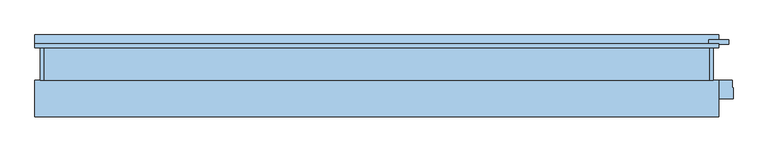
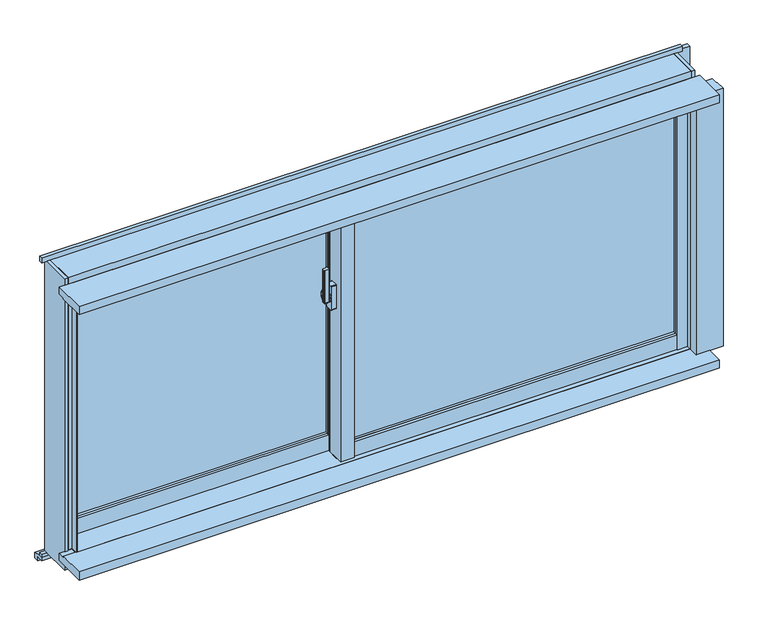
"""IFC4 building model written with IfcOpenShell, lengths in millimetres: window geometry, FNSⅡ100R_個別防火_ALC枠_単窓 : 外動片引."""

from ifc_helpers import new_model, si_unit, point, frame, frame_2d, origin, place, context, project, spatial, polyline, circle_curve, trimmed, segment, composite_curve, outline, extrude, faceted_brep, source, transform, mapped, element, save
from ifc_brep_helpers import plane_surface, cylinder_surface, revolved_surface, advanced_brep


def window_2540c21f(model_context):
    return source(origin(), model_context, "Body", "SolidModel", [
        extrude(outline(composite_curve([segment(polyline([(-139.0, 14.6), (-139.0, 6.4)]), True, "CONTINUOUS"), segment(trimmed(circle_curve(frame_2d((-141.0, 6.4)), 2.0), [point((-139.0, 6.4))], [point((-141.3606557, 4.4327869))], False, "CARTESIAN"), True, "CONTINUOUS"), segment(polyline([(-141.3606557, 4.4327869), (-152.3606557, 6.4494536)]), True, "CONTINUOUS"), segment(trimmed(circle_curve(frame_2d((-152.0, 8.4166667)), 2.0), [point((-152.3606557, 6.4494536))], [point((-154.0, 8.4166667))], False, "CARTESIAN"), True, "CONTINUOUS"), segment(polyline([(-154.0, 8.4166667), (-154.0, 12.5833333)]), True, "CONTINUOUS"), segment(trimmed(circle_curve(frame_2d((-152.0, 12.5833333)), 2.0), [point((-154.0, 12.5833333))], [point((-152.3606557, 14.5505464))], False, "CARTESIAN"), True, "CONTINUOUS"), segment(polyline([(-152.3606557, 14.5505464), (-141.3606557, 16.5672131)]), True, "CONTINUOUS"), segment(trimmed(circle_curve(frame_2d((-141.0, 14.6)), 2.0), [point((-141.3606557, 16.5672131))], [point((-139.0, 14.6))], False, "CARTESIAN"), True, "CONTINUOUS")], self_intersect=False)), frame((0.0, 0.0, 1390.0), z_axis=(0.0, 0.0, 1.0), x_axis=(1.0, 0.0, 0.0)), (0.0, 0.0, 1.0), 100.0),
        advanced_brep(
        [(-137.5, 18.8234285, 1421.7333311), (-145.5, 18.8234285, 1421.7333311), (-145.5, 18.4351999, 1420.2844424), (-139.0, 18.4351999, 1420.2844424), (-139.0, 16.6234666, 1413.5229616), (-137.5, 16.6234666, 1413.5229616), (-139.0, 16.6466117, 1379.3190372), (-145.5, 16.6466117, 1379.3190372), (-145.5, 16.907084, 1377.8418256), (-137.5, 16.907084, 1377.8418256), (-137.5, 15.4310745, 1386.2126915), (-139.0, 15.4310745, 1386.2126915)],
        [
            (0, 1),
            (1, 2),
            (2, 3),
            (3, 4),
            (4, 5),
            (5, 0),
            (6, 7),
            (7, 8),
            (8, 9),
            (9, 10),
            (10, 11),
            (11, 6),
            (0, 9, circle_curve(frame((-137.5, 13.0, 1400.0), z_axis=(-1.0, 0.0, 0.0), x_axis=(0.0, 0.25881904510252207, 0.965925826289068)), 22.5)),
            (8, 1, circle_curve(frame((-145.5, 13.0, 1400.0), z_axis=(1.0, 0.0, 0.0), x_axis=(0.0, 0.25881904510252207, 0.965925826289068)), 22.5)),
            (7, 2, circle_curve(frame((-145.5, 13.0, 1400.0), z_axis=(1.0, 0.0, 0.0), x_axis=(0.0, 0.25881904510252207, 0.965925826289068)), 21.0)),
            (6, 3, circle_curve(frame((-139.0, 13.0, 1400.0), z_axis=(1.0, 0.0, 0.0), x_axis=(0.0, 0.25881904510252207, 0.965925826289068)), 21.0)),
            (11, 4, circle_curve(frame((-139.0, 13.0, 1400.0), z_axis=(-1.0, 0.0, 0.0), x_axis=(0.0, -1.0, 0.0)), 14.0)),
            (5, 10, circle_curve(frame((-137.5, 13.0, 1400.0), z_axis=(1.0, 0.0, 0.0), x_axis=(0.0, -1.0, 0.0)), 14.0)),
        ],
        [
            plane_surface(frame((-143.5470497, 13.0, 1400.0), z_axis=(0.0, -0.965925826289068, 0.25881904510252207), x_axis=(0.0, 0.25881904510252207, 0.965925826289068))),
            plane_surface(frame((-143.5470497, 13.0, 1400.0), z_axis=(0.0, -0.9848077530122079, -0.17364817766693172), x_axis=(0.0, 0.17364817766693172, -0.9848077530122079))),
            cylinder_surface(frame((-143.5470497, 13.0, 1400.0), z_axis=(-1.0, 0.0, 0.0), x_axis=(0.0, 0.25881904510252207, 0.965925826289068)), 22.5),
            plane_surface(frame((-145.5, 13.0, 1400.0), z_axis=(-1.0, 0.0, 0.0), x_axis=(0.0, 0.25881904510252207, 0.965925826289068))),
            revolved_surface(polyline([(-145.5, 18.435199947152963, 1420.2844423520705), (-139.0, 18.435199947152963, 1420.2844423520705)]), (-143.5470497, 13.0, 1400.0), (-1.0, 0.0, 0.0)),
            plane_surface(frame((-139.0, 13.0, 1400.0), z_axis=(-1.0, 0.0, 0.0), x_axis=(0.0, 0.25881904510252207, 0.965925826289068))),
            plane_surface(frame((-137.5, 13.0, 1400.0), z_axis=(1.0, 0.0, 0.0), x_axis=(0.0, 0.25881904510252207, 0.965925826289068))),
            cylinder_surface(frame((-137.5, 13.0, 1400.0), z_axis=(-1.0, 0.0, 0.0), x_axis=(0.0, -1.0, 0.0)), 14.0),
        ],
        [
            (0, [[1, 2, 3, 4, 5, 6]]),
            (1, [[7, 8, 9, 10, 11, 12]]),
            (2, [[-1, 13, -9, 14]]),
            (3, [[-2, -14, -8, 15]]),
            (4, [[-3, -15, -7, 16]]),
            (5, [[-16, -12, 17, -4]]),
            (6, [[-13, -6, 18, -10]]),
            (7, [[-17, -11, -18, -5]]),
        ],
    ),
        extrude(outline(composite_curve([segment(trimmed(circle_curve(frame_2d((13.0, 1400.0)), 11.5), [point((24.5, 1400.0))], [point((1.5, 1400.0))], False, "CARTESIAN"), True, "CONTINUOUS"), segment(trimmed(circle_curve(frame_2d((13.0, 1400.0)), 11.5), [point((1.5, 1400.0))], [point((24.5, 1400.0))], False, "CARTESIAN"), True, "CONTINUOUS")], self_intersect=False)), frame((-137.5, 0.0, 0.0), z_axis=(1.0, 0.0, 0.0), x_axis=(0.0, 1.0, 0.0)), (0.0, 0.0, 1.0), 2.5),
        extrude(outline(composite_curve([segment(polyline([(4.0, 1437.5), (22.0, 1437.5)]), True, "CONTINUOUS"), segment(trimmed(circle_curve(frame_2d((22.0, 1435.5)), 2.0), [point((22.0, 1437.5))], [point((24.0, 1435.5))], False, "CARTESIAN"), True, "CONTINUOUS"), segment(polyline([(24.0, 1435.5), (24.0, 1364.5)]), True, "CONTINUOUS"), segment(trimmed(circle_curve(frame_2d((22.0, 1364.5)), 2.0), [point((24.0, 1364.5))], [point((22.0, 1362.5))], False, "CARTESIAN"), True, "CONTINUOUS"), segment(polyline([(22.0, 1362.5), (4.0, 1362.5)]), True, "CONTINUOUS"), segment(trimmed(circle_curve(frame_2d((4.0, 1364.5)), 2.0), [point((4.0, 1362.5))], [point((2.0, 1364.5))], False, "CARTESIAN"), True, "CONTINUOUS"), segment(polyline([(2.0, 1364.5), (2.0, 1435.5)]), True, "CONTINUOUS"), segment(trimmed(circle_curve(frame_2d((4.0, 1435.5)), 2.0), [point((2.0, 1435.5))], [point((4.0, 1437.5))], False, "CARTESIAN"), True, "CONTINUOUS")], self_intersect=False)), frame((-135.0, 0.0, 0.0), z_axis=(1.0, 0.0, 0.0), x_axis=(0.0, 1.0, 0.0)), (0.0, 0.0, 1.0), 15.0),
        extrude(outline(polyline([(-80.0, 4.0), (868.0, 4.0), (868.0, -2.0), (-80.0, -2.0), (-80.0, 4.0)])), frame((0.0, 0.0, 948.0), z_axis=(0.0, 0.0, 1.0), x_axis=(1.0, 0.0, 0.0)), (0.0, 0.0, 1.0), 712.0),
        extrude(outline(polyline([(-80.0, 22.0), (868.0, 22.0), (868.0, 16.0), (-80.0, 16.0), (-80.0, 22.0)])), frame((0.0, 0.0, 948.0), z_axis=(0.0, 0.0, 1.0), x_axis=(1.0, 0.0, 0.0)), (0.0, 0.0, 1.0), 712.0),
        extrude(outline(polyline([(-868.0, 62.0), (-120.0, 62.0), (-120.0, 56.0), (-868.0, 56.0), (-868.0, 62.0)])), frame((0.0, 0.0, 948.0), z_axis=(0.0, 0.0, 1.0), x_axis=(1.0, 0.0, 0.0)), (0.0, 0.0, 1.0), 712.0),
        extrude(outline(polyline([(-868.0, 80.0), (-120.0, 80.0), (-120.0, 74.0), (-868.0, 74.0), (-868.0, 80.0)])), frame((0.0, 0.0, 948.0), z_axis=(0.0, 0.0, 1.0), x_axis=(1.0, 0.0, 0.0)), (0.0, 0.0, 1.0), 712.0),
        faceted_brep([(-900.0, 59.0, 1700.0), (-889.5, 59.0, 1700.0), (-889.5, 46.0, 1700.0), (-868.0, 46.0, 1700.0), (-868.0, 88.0, 1700.0), (-900.0, 88.0, 1700.0), (-868.0, 59.0, 860.0), (-900.0, 59.0, 860.0), (-900.0, 88.0, 860.0), (-868.0, 88.0, 860.0), (-868.0, 59.0, 900.0), (-889.5, 59.0, 900.0), (-889.5, 46.0, 900.0), (-868.0, 46.0, 900.0)], [[[0, 1, 2, 3, 4, 5]], [[6, 7, 8, 9]], [[1, 0, 7, 6, 10, 11]], [[2, 1, 11, 12]], [[3, 2, 12, 13]], [[4, 3, 13, 10, 6, 9]], [[5, 4, 9, 8]], [[7, 0, 5, 8]], [[11, 10, 13, 12]]]),
        faceted_brep([(-80.0, 59.0, 900.0), (-120.0, 59.0, 900.0), (-120.0, 59.0, 860.0), (-80.0, 59.0, 860.0), (-120.0, 45.5, 1700.0), (-101.8, 45.5, 1700.0), (-101.8, 33.1, 1700.0), (-80.0, 33.1, 1700.0), (-80.0, 88.0, 1700.0), (-120.0, 88.0, 1700.0), (-120.0, 88.0, 860.0), (-80.0, 88.0, 860.0), (-120.0, 45.5, 900.0), (-101.8, 45.5, 900.0), (-101.8, 33.1, 900.0), (-80.0, 33.1, 900.0)], [[[0, 1, 2, 3]], [[4, 5, 6, 7, 8, 9]], [[10, 11, 3, 2]], [[5, 4, 12, 13]], [[6, 5, 13, 14]], [[7, 6, 14, 15]], [[8, 7, 15, 0, 3, 11]], [[9, 8, 11, 10]], [[4, 9, 10, 2, 1, 12]], [[1, 0, 15, 14, 13, 12]]]),
        extrude(outline(polyline([(-120.0, 33.1), (-115.0, 33.1), (-115.0, -12.0), (-82.6, -12.0), (-82.6, -8.0), (-80.0, -8.0), (-80.0, -20.0), (-120.0, -20.0), (-120.0, 33.1)])), frame((0.0, 0.0, 900.0), z_axis=(0.0, 0.0, 1.0), x_axis=(1.0, 0.0, 0.0)), (0.0, 0.0, 1.0), 800.0),
        extrude(outline(polyline([(-115.0, 33.1), (-80.0, 33.1), (-80.0, -8.0), (-82.6, -8.0), (-82.6, -12.0), (-115.0, -12.0), (-115.0, 33.1)])), frame((0.0, 0.0, 900.0), z_axis=(0.0, 0.0, 1.0), x_axis=(1.0, 0.0, 0.0)), (0.0, 0.0, 1.0), 800.0),
        extrude(outline(polyline([(868.0, -20.0), (868.0, -12.0), (889.5, -12.0), (889.5, 1.0), (897.0, 1.0), (897.0, -20.0), (868.0, -20.0)])), frame((0.0, 0.0, 903.0), z_axis=(0.0, 0.0, 1.0), x_axis=(1.0, 0.0, 0.0)), (0.0, 0.0, 1.0), 797.0),
        extrude(outline(polyline([(868.0, 30.0), (900.0, 30.0), (900.0, 1.0), (889.5, 1.0), (889.5, -12.0), (868.0, -12.0), (868.0, 30.0)])), frame((0.0, 0.0, 900.0), z_axis=(0.0, 0.0, 1.0), x_axis=(1.0, 0.0, 0.0)), (0.0, 0.0, 1.0), 800.0),
        extrude(outline(polyline([(-101.8, 45.5), (-101.8, 38.0), (-120.0, 38.0), (-120.0, 45.5), (-101.8, 45.5)])), frame((0.0, 0.0, 900.0), z_axis=(0.0, 0.0, 1.0), x_axis=(1.0, 0.0, 0.0)), (0.0, 0.0, 1.0), 800.0),
        extrude(outline(polyline([(-897.0, 59.0), (-889.5, 59.0), (-889.5, 46.0), (-868.0, 46.0), (-868.0, 38.0), (-897.0, 38.0), (-897.0, 59.0)])), frame((0.0, 0.0, 900.0), z_axis=(0.0, 0.0, 1.0), x_axis=(1.0, 0.0, 0.0)), (0.0, 0.0, 1.0), 800.0),
        extrude(outline(polyline([(-18.0, 903.0), (-18.0, 948.0), (-10.0, 948.0), (-10.0, 925.5), (1.0, 925.5), (1.0, 903.0), (-18.0, 903.0)])), frame((-80.0, 0.0, 0.0), z_axis=(1.0, 0.0, 0.0), x_axis=(0.0, 1.0, 0.0)), (0.0, 0.0, 1.0), 948.0),
        extrude(outline(polyline([(30.0, 900.0), (1.0, 900.0), (1.0, 925.5), (-10.0, 925.5), (-10.0, 948.0), (30.0, 948.0), (30.0, 900.0)])), frame((-80.0, 0.0, 0.0), z_axis=(1.0, 0.0, 0.0), x_axis=(0.0, 1.0, 0.0)), (0.0, 0.0, 1.0), 948.0),
        extrude(outline(polyline([(40.0, 948.0), (48.0, 948.0), (48.0, 925.5), (59.0, 925.5), (59.0, 900.0), (40.0, 900.0), (40.0, 948.0)])), frame((-868.0, 0.0, 0.0), z_axis=(1.0, 0.0, 0.0), x_axis=(0.0, 1.0, 0.0)), (0.0, 0.0, 1.0), 748.0),
        extrude(outline(polyline([(88.0, 860.0), (59.0, 860.0), (59.0, 925.5), (48.0, 925.5), (48.0, 948.0), (88.0, 948.0), (88.0, 860.0)])), frame((-868.0, 0.0, 0.0), z_axis=(1.0, 0.0, 0.0), x_axis=(0.0, 1.0, 0.0)), (0.0, 0.0, 1.0), 748.0),
        extrude(outline(polyline([(3.0, 1680.5), (-10.0, 1680.5), (-10.0, 1660.0), (-18.0, 1660.0), (-18.0, 1700.0), (3.0, 1700.0), (3.0, 1680.5)])), frame((-80.0, 0.0, 0.0), z_axis=(1.0, 0.0, 0.0), x_axis=(0.0, 1.0, 0.0)), (0.0, 0.0, 1.0), 948.0),
        extrude(outline(polyline([(30.0, 1700.0), (30.0, 1660.0), (-10.0, 1660.0), (-10.0, 1680.5), (3.0, 1680.5), (3.0, 1700.0), (30.0, 1700.0)])), frame((-80.0, 0.0, 0.0), z_axis=(1.0, 0.0, 0.0), x_axis=(0.0, 1.0, 0.0)), (0.0, 0.0, 1.0), 948.0),
        extrude(outline(polyline([(61.0, 1680.5), (48.0, 1680.5), (48.0, 1660.0), (40.0, 1660.0), (40.0, 1700.0), (61.0, 1700.0), (61.0, 1680.5)])), frame((-868.0, 0.0, 0.0), z_axis=(1.0, 0.0, 0.0), x_axis=(0.0, 1.0, 0.0)), (0.0, 0.0, 1.0), 748.0),
        extrude(outline(polyline([(88.0, 1700.0), (88.0, 1660.0), (48.0, 1660.0), (48.0, 1680.5), (61.0, 1680.5), (61.0, 1700.0), (88.0, 1700.0)])), frame((-868.0, 0.0, 0.0), z_axis=(1.0, 0.0, 0.0), x_axis=(0.0, 1.0, 0.0)), (0.0, 0.0, 1.0), 748.0),
        extrude(outline(polyline([(-122.0, 60.3), (-122.0, 11.9), (-900.0, 11.9), (-900.0, 60.3), (-122.0, 60.3)])), frame((0.0, 0.0, 1700.0), z_axis=(0.0, 0.0, 1.0), x_axis=(1.0, 0.0, 0.0)), (0.0, 0.0, 1.0), 25.0),
        faceted_brep([(915.0, 60.3, 1725.0), (915.0, -10.0, 1725.0), (-915.0, -10.0, 1725.0), (-915.0, 60.3, 1725.0), (-122.0, 60.3, 1725.0), (-122.0, 11.9, 1725.0), (900.0, 11.9, 1725.0), (900.0, 60.3, 1725.0), (915.0, 60.3, 1700.0), (900.0, 60.3, 1700.0), (-915.0, 60.3, 1700.0), (-122.0, 60.3, 1700.0), (915.0, 90.0, 1700.0), (900.0, 11.9, 1700.0), (-122.0, 11.9, 1700.0), (-915.0, 90.0, 1700.0), (915.0, 90.0, 1745.0), (-915.0, 90.0, 1745.0), (915.0, -10.0, 1745.0), (-915.0, -10.0, 1745.0)], [[[0, 1, 2, 3, 4, 5, 6, 7]], [[8, 0, 7, 9]], [[3, 10, 11, 4]], [[12, 8, 9, 13, 14, 11, 10, 15]], [[16, 12, 15, 17]], [[18, 16, 17, 19]], [[1, 18, 19, 2]], [[12, 16, 18, 1, 0, 8]], [[15, 10, 3, 2, 19, 17]], [[6, 13, 9, 7]], [[11, 14, 5, 4]], [[13, 6, 5, 14]]]),
        extrude(outline(polyline([(11.9, 1700.0), (-30.0, 1700.0), (-30.0, 1703.0), (-10.0, 1703.0), (-10.0, 1725.0), (11.9, 1725.0), (11.9, 1700.0)])), frame((-900.0, 0.0, 0.0), z_axis=(1.0, 0.0, 0.0), x_axis=(0.0, 1.0, 0.0)), (0.0, 0.0, 1.0), 1800.0),
        faceted_brep([(900.0, -10.0, 1720.0), (915.0, -10.0, 1720.0), (915.0, -5.5, 1720.0), (900.0, -5.5, 1720.0), (900.0, -30.0, 900.0), (900.0, -5.5, 900.0), (915.0, -5.5, 900.0), (915.0, -10.0, 900.0), (903.0, -10.0, 900.0), (903.0, -30.0, 900.0), (903.0, -30.0, 1703.0), (900.0, -30.0, 1703.0), (903.0, -10.0, 1703.0), (900.0, -10.0, 1703.0)], [[[0, 1, 2, 3]], [[4, 5, 6, 7, 8, 9]], [[4, 9, 10, 11]], [[9, 8, 12, 10]], [[0, 13, 12, 8, 7, 1]], [[2, 1, 7, 6]], [[3, 2, 6, 5]], [[5, 4, 11, 13, 0, 3]], [[12, 13, 11, 10]]]),
        faceted_brep([(-915.0, -10.0, 1720.0), (-900.0, -10.0, 1720.0), (-900.0, 56.0, 1720.0), (-915.0, 56.0, 1720.0), (-915.0, -10.0, 900.0), (-915.0, 56.0, 900.0), (-900.0, 56.0, 900.0), (-900.0, -30.0, 900.0), (-903.0, -30.0, 900.0), (-903.0, -10.0, 900.0), (-903.0, -10.0, 1703.0), (-900.0, -10.0, 1703.0), (-903.0, -30.0, 1703.0), (-900.0, -30.0, 1703.0)], [[[0, 1, 2, 3]], [[4, 5, 6, 7, 8, 9]], [[4, 9, 10, 11, 1, 0]], [[9, 8, 12, 10]], [[8, 7, 13, 12]], [[7, 6, 2, 1, 11, 13]], [[3, 2, 6, 5]], [[4, 0, 3, 5]], [[11, 10, 12, 13]]]),
        faceted_brep([(-925.0, 90.0, 1745.0), (-925.0, -10.0, 1745.0), (-915.0, -10.0, 1745.0), (-915.0, 90.0, 1745.0), (-925.0, 90.0, 840.0), (-915.0, 90.0, 840.0), (-915.0, -10.0, 840.0), (-925.0, -10.0, 840.0), (-915.0, 90.0, 849.0), (-915.0, 56.0, 849.0), (-915.0, 56.0, 1700.0), (-915.0, 90.0, 1700.0), (-900.0, 90.0, 1700.0), (-900.0, 90.0, 849.0), (-900.0, 56.0, 1700.0), (-900.0, 56.0, 849.0)], [[[0, 1, 2, 3]], [[4, 5, 6, 7]], [[1, 0, 4, 7]], [[2, 1, 7, 6]], [[3, 2, 6, 5, 8, 9, 10, 11]], [[0, 3, 11, 12, 13, 8, 5, 4]], [[12, 11, 10, 14]], [[13, 15, 9, 8]], [[14, 10, 9, 15]], [[12, 14, 15, 13]]]),
        faceted_brep([(915.0, -10.0, 1745.0), (925.0, -10.0, 1745.0), (925.0, 90.0, 1745.0), (915.0, 90.0, 1745.0), (915.0, -10.0, 840.0), (915.0, 90.0, 840.0), (925.0, 90.0, 840.0), (925.0, -10.0, 840.0), (915.0, -5.5, 1700.0), (900.0, -5.5, 1700.0), (900.0, -5.5, 849.0), (915.0, -5.5, 849.0), (900.0, 90.0, 1700.0), (900.0, 90.0, 849.0), (915.0, 90.0, 1700.0), (915.0, 90.0, 849.0)], [[[0, 1, 2, 3]], [[4, 5, 6, 7]], [[8, 9, 10, 11]], [[9, 12, 13, 10]], [[9, 8, 14, 12]], [[10, 13, 15, 11]], [[1, 0, 4, 7]], [[2, 1, 7, 6]], [[3, 2, 6, 5, 15, 13, 12, 14]], [[0, 3, 14, 8, 11, 15, 5, 4]]]),
        faceted_brep([(900.0, 17.25, 900.0), (900.0, 17.25, 884.0), (-122.0, 17.25, 884.0), (-122.0, 17.25, 900.0), (915.0, -10.0, 884.0), (915.0, 56.0, 884.0), (-915.0, 56.0, 884.0), (-915.0, -10.0, 884.0), (900.0, -1.2, 884.0), (-122.0, -1.2, 884.0), (915.0, 56.0, 849.0), (-915.0, 56.0, 849.0), (915.0, 90.0, 849.0), (-915.0, 90.0, 849.0), (915.0, 90.0, 840.0), (915.0, -10.0, 840.0), (-915.0, -10.0, 840.0), (-915.0, 90.0, 840.0), (900.0, -1.2, 900.0), (-122.0, -1.2, 900.0)], [[[0, 1, 2, 3]], [[4, 5, 6, 7], [1, 8, 9, 2]], [[5, 10, 11, 6]], [[10, 12, 13, 11]], [[14, 15, 16, 17]], [[14, 12, 10, 5, 4, 15]], [[17, 16, 7, 6, 11, 13]], [[15, 4, 7, 16]], [[12, 14, 17, 13]], [[18, 8, 1, 0]], [[19, 3, 2, 9]], [[8, 18, 19, 9]], [[18, 0, 3, 19]]]),
        faceted_brep([(-900.0, 56.0, 900.0), (-900.0, 56.0, 884.0), (-900.0, -1.2, 884.0), (-900.0, -1.2, 900.0), (903.0, -30.0, 900.0), (903.0, -30.0, 897.0), (903.0, -10.0, 897.0), (903.0, -10.0, 884.0), (903.0, -5.5, 884.0), (903.0, -5.5, 900.0), (-903.0, -10.0, 884.0), (-903.0, -10.0, 897.0), (-903.0, -30.0, 897.0), (-903.0, -30.0, 900.0), (-903.0, -1.2, 900.0), (-903.0, -1.2, 884.0), (900.0, -5.5, 900.0), (900.0, -1.2, 900.0), (-122.0, -1.2, 900.0), (-122.0, 56.0, 900.0), (900.0, -1.2, 884.0), (-122.0, -1.2, 884.0), (-122.0, 56.0, 884.0), (900.0, -5.5, 884.0)], [[[0, 1, 2, 3]], [[4, 5, 6, 7, 8, 9]], [[10, 11, 12, 13, 14, 15]], [[7, 6, 11, 10]], [[6, 5, 12, 11]], [[5, 4, 13, 12]], [[14, 13, 4, 9, 16, 17, 18, 19, 0, 3]], [[15, 14, 3, 2]], [[17, 20, 21, 18]], [[10, 15, 2, 1, 22, 21, 20, 23, 8, 7]], [[16, 23, 20, 17]], [[23, 16, 9, 8]], [[19, 18, 21, 22]], [[19, 22, 1, 0]]]),
        extrude(outline(polyline([(-110.0, 900.0), (-30.0, 900.0), (-30.0, 897.0), (-10.0, 897.0), (-10.0, 875.0), (-110.0, 875.0), (-110.0, 900.0)])), frame((-940.0, 0.0, 0.0), z_axis=(1.0, 0.0, 0.0), x_axis=(0.0, 1.0, 0.0)), (0.0, 0.0, 1.0), 1880.0),
        extrude(outline(polyline([(-940.0, 80.0), (-940.0, 90.0), (940.0, 90.0), (940.0, 80.0), (-940.0, 80.0)])), frame((0.0, 0.0, 830.0), z_axis=(0.0, 0.0, 1.0), x_axis=(1.0, 0.0, 0.0)), (0.0, 0.0, 1.0), 10.0),
        extrude(outline(polyline([(100.0, 807.0), (100.0, 820.0), (80.0, 820.0), (80.0, 830.0), (90.0, 830.0), (115.0, 825.0), (115.0, 807.0), (100.0, 807.0)])), frame((-940.0, 0.0, 0.0), z_axis=(1.0, 0.0, 0.0), x_axis=(0.0, 1.0, 0.0)), (0.0, 0.0, 1.0), 1880.0),
        extrude(outline(polyline([(903.0, -30.0), (903.0, -10.0), (977.0, -10.0), (977.0, -30.0), (980.0, -30.0), (980.0, -60.0), (900.0, -60.0), (900.0, -30.0), (903.0, -30.0)])), frame((0.0, 0.0, 900.0), z_axis=(0.0, 0.0, 1.0), x_axis=(1.0, 0.0, 0.0)), (0.0, 0.0, 1.0), 800.0),
        extrude(outline(polyline([(967.5, 90.0), (912.5, 90.0), (912.5, 102.0), (967.5, 102.0), (967.5, 90.0)])), frame((0.0, 0.0, 840.0), z_axis=(0.0, 0.0, 1.0), x_axis=(1.0, 0.0, 0.0)), (0.0, 0.0, 1.0), 905.0),
        extrude(outline(polyline([(-110.0, 1725.0), (-10.0, 1725.0), (-10.0, 1703.0), (-30.0, 1703.0), (-30.0, 1700.0), (-110.0, 1700.0), (-110.0, 1725.0)])), frame((-940.0, 0.0, 0.0), z_axis=(1.0, 0.0, 0.0), x_axis=(0.0, 1.0, 0.0)), (0.0, 0.0, 1.0), 1880.0),
        extrude(outline(polyline([(-940.0, 80.0), (-940.0, 90.0), (940.0, 90.0), (940.0, 80.0), (-940.0, 80.0)])), frame((0.0, 0.0, 1745.0), z_axis=(0.0, 0.0, 1.0), x_axis=(1.0, 0.0, 0.0)), (0.0, 0.0, 1.0), 15.0),
    ])


if __name__ == "__main__":
    model = new_model("IFC4")
    model_context = context("Model", 3, world=origin())
    ifc_project = project(units=[si_unit("LENGTHUNIT", "METRE", prefix="MILLI")], contexts=[model_context])
    site = spatial("IfcSite", under=ifc_project)
    building = spatial("IfcBuilding", under=site)
    placement = place(None, origin())
    window_shape = window_2540c21f(model_context)
    element("IfcWindow", 1, ObjectType="FNSⅡ100R_個別防火_ALC枠_単窓 : 外動片引", at=placement, inside=building, context=model_context, shape_type="MappedRepresentation", body=[
        mapped(window_shape, transform((0.0, 0.0, 0.0), x_axis=(1.0, 0.0, 0.0), y_axis=(0.0, 1.0, 0.0), z_axis=(0.0, 0.0, 1.0))),
    ])
    save(model, "model.ifc")
